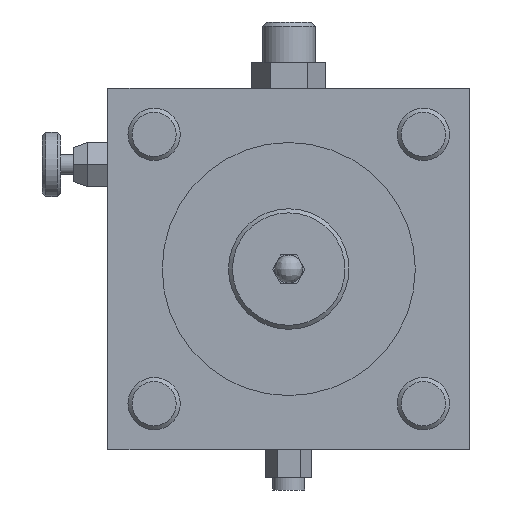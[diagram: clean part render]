
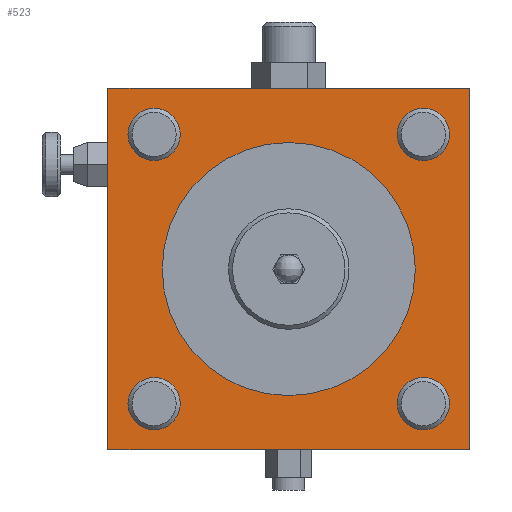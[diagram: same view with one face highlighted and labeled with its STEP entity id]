
A CAD part, left-side view. The second image highlights one B-rep face of the part: STEP entity #523.
In plain terms, the highlighted planar face has unit normal (-1, 0, 0).
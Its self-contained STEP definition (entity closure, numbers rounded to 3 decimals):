
#19 = VERTEX_POINT ( 'NONE', #1324 ) ;
#73 = DIRECTION ( 'NONE',  ( 0., 0., 1. ) ) ;
#130 = EDGE_CURVE ( 'NONE', #257, #2347, #630, .T. ) ;
#132 = EDGE_LOOP ( 'NONE', ( #735 ) ) ;
#133 = DIRECTION ( 'NONE',  ( -1., 0., 0. ) ) ;
#159 = CARTESIAN_POINT ( 'NONE',  ( -431., 33.517, -33.517 ) ) ;
#172 = EDGE_CURVE ( 'NONE', #1682, #1682, #2375, .T. ) ;
#204 = EDGE_CURVE ( 'NONE', #678, #2831, #1176, .T. ) ;
#257 = VERTEX_POINT ( 'NONE', #423 ) ;
#346 = CARTESIAN_POINT ( 'NONE',  ( -431., 33.517, 33.517 ) ) ;
#347 = CARTESIAN_POINT ( 'NONE',  ( -431., -45., -45. ) ) ;
#348 = CARTESIAN_POINT ( 'NONE',  ( -431., 33.517, 40.017 ) ) ;
#423 = CARTESIAN_POINT ( 'NONE',  ( -431., -45., 45. ) ) ;
#487 = CARTESIAN_POINT ( 'NONE',  ( -431., 33.517, -27.017 ) ) ;
#523 = ADVANCED_FACE ( 'NONE', ( #3203, #1130, #2441, #1336, #876, #2956 ), #1647, .T. ) ;
#560 = VERTEX_POINT ( 'NONE', #487 ) ;
#577 = CARTESIAN_POINT ( 'NONE',  ( -431., 45., 45. ) ) ;
#602 = EDGE_LOOP ( 'NONE', ( #1420 ) ) ;
#630 = LINE ( 'NONE', #2374, #2591 ) ;
#678 = VERTEX_POINT ( 'NONE', #1941 ) ;
#701 = EDGE_LOOP ( 'NONE', ( #1353 ) ) ;
#723 = AXIS2_PLACEMENT_3D ( 'NONE', #159, #2200, #2739 ) ;
#735 = ORIENTED_EDGE ( 'NONE', *, *, #2469, .T. ) ;
#764 = VECTOR ( 'NONE', #1486, 1000. ) ;
#767 = CARTESIAN_POINT ( 'NONE',  ( -431., -33.517, 33.517 ) ) ;
#820 = CARTESIAN_POINT ( 'NONE',  ( -431., -45., -45. ) ) ;
#831 = CARTESIAN_POINT ( 'NONE',  ( -431., -33.517, 40.017 ) ) ;
#876 = FACE_BOUND ( 'NONE', #602, .T. ) ;
#908 = EDGE_CURVE ( 'NONE', #2347, #678, #2644, .T. ) ;
#1045 = AXIS2_PLACEMENT_3D ( 'NONE', #767, #3093, #2104 ) ;
#1054 = EDGE_LOOP ( 'NONE', ( #2156 ) ) ;
#1079 = EDGE_CURVE ( 'NONE', #2236, #2236, #2273, .T. ) ;
#1086 = ORIENTED_EDGE ( 'NONE', *, *, #204, .F. ) ;
#1088 = AXIS2_PLACEMENT_3D ( 'NONE', #1093, #133, #1895 ) ;
#1093 = CARTESIAN_POINT ( 'NONE',  ( -431., 0., 0. ) ) ;
#1130 = FACE_BOUND ( 'NONE', #3274, .T. ) ;
#1131 = CARTESIAN_POINT ( 'NONE',  ( -431., 0., 0. ) ) ;
#1174 = CARTESIAN_POINT ( 'NONE',  ( -431., 45., 45. ) ) ;
#1176 = LINE ( 'NONE', #2523, #764 ) ;
#1324 = CARTESIAN_POINT ( 'NONE',  ( -431., 0., 31.5 ) ) ;
#1336 = FACE_BOUND ( 'NONE', #1054, .T. ) ;
#1353 = ORIENTED_EDGE ( 'NONE', *, *, #3088, .T. ) ;
#1420 = ORIENTED_EDGE ( 'NONE', *, *, #2835, .T. ) ;
#1466 = DIRECTION ( 'NONE',  ( 0., -1., 0. ) ) ;
#1486 = DIRECTION ( 'NONE',  ( 0., 0., 1. ) ) ;
#1614 = DIRECTION ( 'NONE',  ( 0., 0., -1. ) ) ;
#1644 = EDGE_CURVE ( 'NONE', #2831, #257, #3030, .T. ) ;
#1647 = PLANE ( 'NONE',  #1088 ) ;
#1682 = VERTEX_POINT ( 'NONE', #348 ) ;
#1895 = DIRECTION ( 'NONE',  ( 0., 0., 1. ) ) ;
#1900 = VECTOR ( 'NONE', #2915, 1000. ) ;
#1941 = CARTESIAN_POINT ( 'NONE',  ( -431., 45., -45. ) ) ;
#1998 = DIRECTION ( 'NONE',  ( 0., 0., 1. ) ) ;
#2009 = ORIENTED_EDGE ( 'NONE', *, *, #1644, .F. ) ;
#2054 = AXIS2_PLACEMENT_3D ( 'NONE', #3075, #2514, #1998 ) ;
#2060 = CIRCLE ( 'NONE', #1045, 6.5 ) ;
#2104 = DIRECTION ( 'NONE',  ( 0., 0., 1. ) ) ;
#2145 = ORIENTED_EDGE ( 'NONE', *, *, #908, .F. ) ;
#2156 = ORIENTED_EDGE ( 'NONE', *, *, #172, .T. ) ;
#2200 = DIRECTION ( 'NONE',  ( 1., 0., 0. ) ) ;
#2236 = VERTEX_POINT ( 'NONE', #3262 ) ;
#2273 = CIRCLE ( 'NONE', #2054, 6.5 ) ;
#2347 = VERTEX_POINT ( 'NONE', #347 ) ;
#2374 = CARTESIAN_POINT ( 'NONE',  ( -431., -45., 45. ) ) ;
#2375 = CIRCLE ( 'NONE', #3293, 6.5 ) ;
#2410 = DIRECTION ( 'NONE',  ( 0., 0., 1. ) ) ;
#2441 = FACE_BOUND ( 'NONE', #132, .T. ) ;
#2469 = EDGE_CURVE ( 'NONE', #560, #560, #3160, .T. ) ;
#2495 = CIRCLE ( 'NONE', #2991, 31.5 ) ;
#2514 = DIRECTION ( 'NONE',  ( 1., 0., 0. ) ) ;
#2523 = CARTESIAN_POINT ( 'NONE',  ( -431., 45., -45. ) ) ;
#2591 = VECTOR ( 'NONE', #1614, 1000. ) ;
#2609 = EDGE_LOOP ( 'NONE', ( #2009, #1086, #2145, #3171 ) ) ;
#2644 = LINE ( 'NONE', #820, #1900 ) ;
#2721 = VECTOR ( 'NONE', #1466, 1000. ) ;
#2739 = DIRECTION ( 'NONE',  ( 0., 0., 1. ) ) ;
#2777 = ORIENTED_EDGE ( 'NONE', *, *, #1079, .T. ) ;
#2831 = VERTEX_POINT ( 'NONE', #577 ) ;
#2835 = EDGE_CURVE ( 'NONE', #19, #19, #2495, .T. ) ;
#2915 = DIRECTION ( 'NONE',  ( 0., 1., 0. ) ) ;
#2920 = DIRECTION ( 'NONE',  ( 1., 0., 0. ) ) ;
#2956 = FACE_OUTER_BOUND ( 'NONE', #2609, .T. ) ;
#2991 = AXIS2_PLACEMENT_3D ( 'NONE', #1131, #2920, #2410 ) ;
#3030 = LINE ( 'NONE', #1174, #2721 ) ;
#3075 = CARTESIAN_POINT ( 'NONE',  ( -431., -33.517, -33.517 ) ) ;
#3088 = EDGE_CURVE ( 'NONE', #3121, #3121, #2060, .T. ) ;
#3093 = DIRECTION ( 'NONE',  ( 1., 0., 0. ) ) ;
#3121 = VERTEX_POINT ( 'NONE', #831 ) ;
#3160 = CIRCLE ( 'NONE', #723, 6.5 ) ;
#3171 = ORIENTED_EDGE ( 'NONE', *, *, #130, .F. ) ;
#3203 = FACE_BOUND ( 'NONE', #701, .T. ) ;
#3224 = DIRECTION ( 'NONE',  ( 1., 0., 0. ) ) ;
#3262 = CARTESIAN_POINT ( 'NONE',  ( -431., -33.517, -27.017 ) ) ;
#3274 = EDGE_LOOP ( 'NONE', ( #2777 ) ) ;
#3293 = AXIS2_PLACEMENT_3D ( 'NONE', #346, #3224, #73 ) ;
